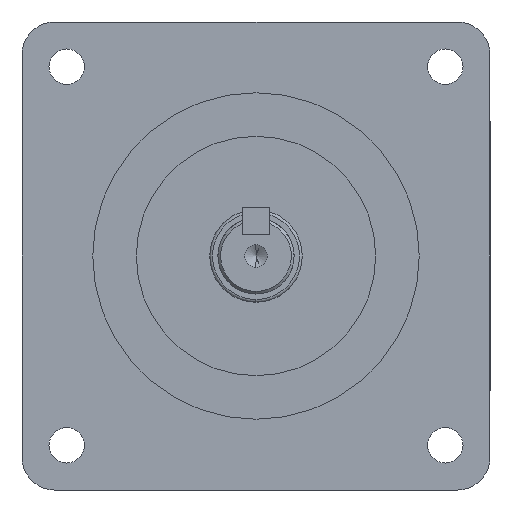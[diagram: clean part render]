
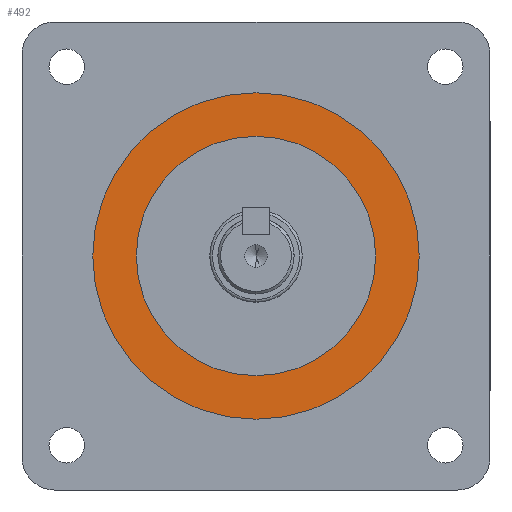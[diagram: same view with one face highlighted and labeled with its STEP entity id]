
A CAD part, left-side view. The second image highlights one B-rep face of the part: STEP entity #492.
In plain terms, the highlighted planar face has unit normal (-1, 0, 0).
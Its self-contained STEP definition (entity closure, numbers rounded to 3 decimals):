
#157 = DIRECTION ( 'NONE',  ( -1., 0., 0. ) ) ;
#203 = AXIS2_PLACEMENT_3D ( 'NONE', #2272, #4921, #4372 ) ;
#263 = CARTESIAN_POINT ( 'NONE',  ( -1.6, 0., 0. ) ) ;
#368 = EDGE_CURVE ( 'NONE', #2960, #1828, #1431, .T. ) ;
#492 = ADVANCED_FACE ( 'NONE', ( #4045, #1414 ), #808, .T. ) ;
#808 = PLANE ( 'NONE',  #1658 ) ;
#1261 = CARTESIAN_POINT ( 'NONE',  ( -1.6, 0., 0. ) ) ;
#1414 = FACE_BOUND ( 'NONE', #4773, .T. ) ;
#1431 = CIRCLE ( 'NONE', #203, 30. ) ;
#1658 = AXIS2_PLACEMENT_3D ( 'NONE', #263, #5118, #4570 ) ;
#1792 = CARTESIAN_POINT ( 'NONE',  ( -1.6, 0., 22. ) ) ;
#1812 = AXIS2_PLACEMENT_3D ( 'NONE', #2176, #5364, #4825 ) ;
#1828 = VERTEX_POINT ( 'NONE', #4418 ) ;
#2163 = ORIENTED_EDGE ( 'NONE', *, *, #4213, .F. ) ;
#2176 = CARTESIAN_POINT ( 'NONE',  ( -1.6, 0., 0. ) ) ;
#2272 = CARTESIAN_POINT ( 'NONE',  ( -1.6, 0., 0. ) ) ;
#2544 = DIRECTION ( 'NONE',  ( 0., 0., 1. ) ) ;
#2640 = VERTEX_POINT ( 'NONE', #1792 ) ;
#2960 = VERTEX_POINT ( 'NONE', #3858 ) ;
#3096 = DIRECTION ( 'NONE',  ( -1., 0., 0. ) ) ;
#3227 = CARTESIAN_POINT ( 'NONE',  ( -1.6, 0., 0. ) ) ;
#3333 = CARTESIAN_POINT ( 'NONE',  ( -1.6, 0., -22. ) ) ;
#3687 = CIRCLE ( 'NONE', #1812, 30. ) ;
#3858 = CARTESIAN_POINT ( 'NONE',  ( -1.6, 0., -30. ) ) ;
#3942 = EDGE_LOOP ( 'NONE', ( #4795, #4076 ) ) ;
#4045 = FACE_OUTER_BOUND ( 'NONE', #3942, .T. ) ;
#4076 = ORIENTED_EDGE ( 'NONE', *, *, #5068, .T. ) ;
#4090 = VERTEX_POINT ( 'NONE', #3333 ) ;
#4109 = CIRCLE ( 'NONE', #4415, 22. ) ;
#4125 = ORIENTED_EDGE ( 'NONE', *, *, #4908, .F. ) ;
#4213 = EDGE_CURVE ( 'NONE', #2640, #4090, #5327, .T. ) ;
#4372 = DIRECTION ( 'NONE',  ( 0., 0., 1. ) ) ;
#4410 = AXIS2_PLACEMENT_3D ( 'NONE', #3227, #3096, #2544 ) ;
#4415 = AXIS2_PLACEMENT_3D ( 'NONE', #1261, #157, #5018 ) ;
#4418 = CARTESIAN_POINT ( 'NONE',  ( -1.6, 0., 30. ) ) ;
#4570 = DIRECTION ( 'NONE',  ( 0., 0., 1. ) ) ;
#4773 = EDGE_LOOP ( 'NONE', ( #4125, #2163 ) ) ;
#4795 = ORIENTED_EDGE ( 'NONE', *, *, #368, .T. ) ;
#4825 = DIRECTION ( 'NONE',  ( 0., 0., 1. ) ) ;
#4908 = EDGE_CURVE ( 'NONE', #4090, #2640, #4109, .T. ) ;
#4921 = DIRECTION ( 'NONE',  ( -1., 0., 0. ) ) ;
#5018 = DIRECTION ( 'NONE',  ( 0., 0., 1. ) ) ;
#5068 = EDGE_CURVE ( 'NONE', #1828, #2960, #3687, .T. ) ;
#5118 = DIRECTION ( 'NONE',  ( -1., 0., 0. ) ) ;
#5327 = CIRCLE ( 'NONE', #4410, 22. ) ;
#5364 = DIRECTION ( 'NONE',  ( -1., 0., 0. ) ) ;
